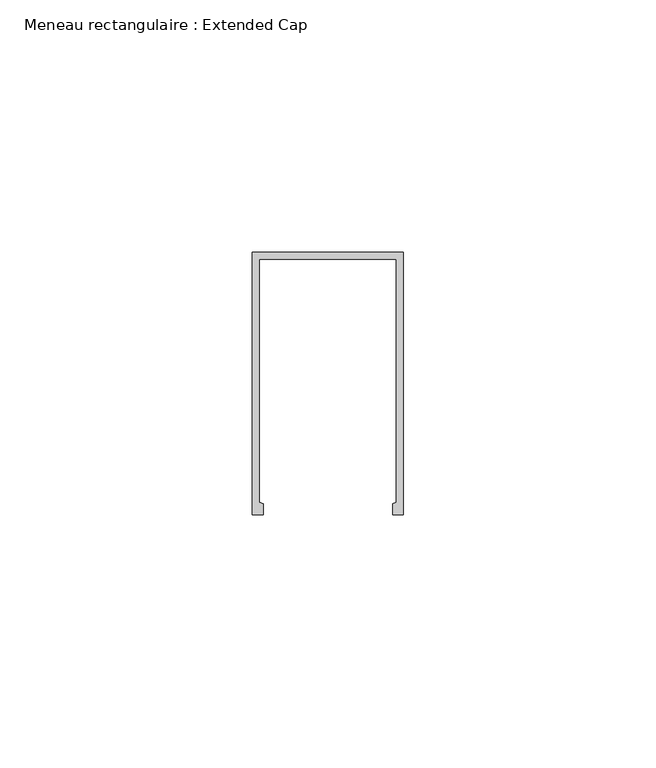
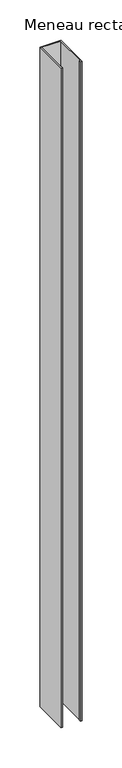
"""IFC4 building model written with IfcOpenShell, lengths in millimetres: member geometry, Meneau rectangulaire : Extended Cap."""

from ifc_helpers import new_model, si_unit, frame, origin, place, context, project, spatial, polyline, outline, extrude, source, transform, mapped, element, save


def meneau_rectangulaire_extended_cap_215ab1c6(model_context):
    return source(origin(), model_context, "Body", "SweptSolid", [
        extrude(outline(polyline([(30.0, 58.1007192), (30.0, 6.0), (27.850993, 6.0), (27.850993, 8.2419727), (28.6, 8.4826662), (28.6, 56.7007192), (1.4, 56.7007192), (1.4, 8.4826662), (2.149007, 8.2419727), (2.149007, 6.0), (0.0, 6.0), (0.0, 58.1007192), (30.0, 58.1007192)])), frame((0.0, 0.0, -1000.0), z_axis=(0.0, 0.0, 1.0), x_axis=(1.0, 0.0, 0.0)), (0.0, 0.0, 1.0), 1000.0),
    ])


if __name__ == "__main__":
    model = new_model("IFC4")
    model_context = context("Model", 3, world=origin())
    ifc_project = project(units=[si_unit("LENGTHUNIT", "METRE", prefix="MILLI")], contexts=[model_context])
    site = spatial("IfcSite", under=ifc_project)
    building = spatial("IfcBuilding", under=site)
    placement = place(None, origin())
    meneau_rectangulaire_extended_cap_shape = meneau_rectangulaire_extended_cap_215ab1c6(model_context)
    element("IfcMember", 1, ObjectType="Meneau rectangulaire : Extended Cap", at=placement, inside=building, context=model_context, shape_type="MappedRepresentation", body=[
        mapped(meneau_rectangulaire_extended_cap_shape, transform((0.0, 0.0, 0.0), x_axis=(1.0, 0.0, 0.0), y_axis=(0.0, 1.0, 0.0), z_axis=(0.0, 0.0, 1.0))),
    ])
    save(model, "model.ifc")
